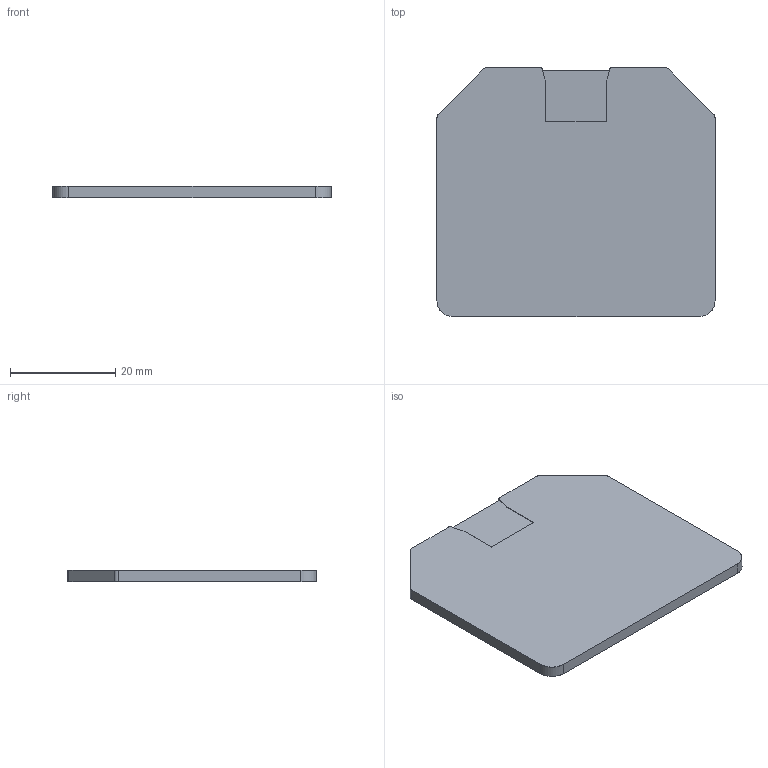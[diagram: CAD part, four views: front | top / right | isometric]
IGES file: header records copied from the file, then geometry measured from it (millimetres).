
Global section: file name: 3047206_d_ut16_select.igs; native system: OneSpace Designer 3D IGES; preprocessor: 13.01  05-Feb-2005; date: 20051102.065822; units: millimetre
Bounding box: 52.8 x 47.3 x 2.2 mm (x, y, z)
Surface area: 5225 mm2 (no closed solid volume)
Topology: 0 solids, 0 shells, 28 faces, 196 edges, 196 vertices
Faces by surface type: bspline 28
